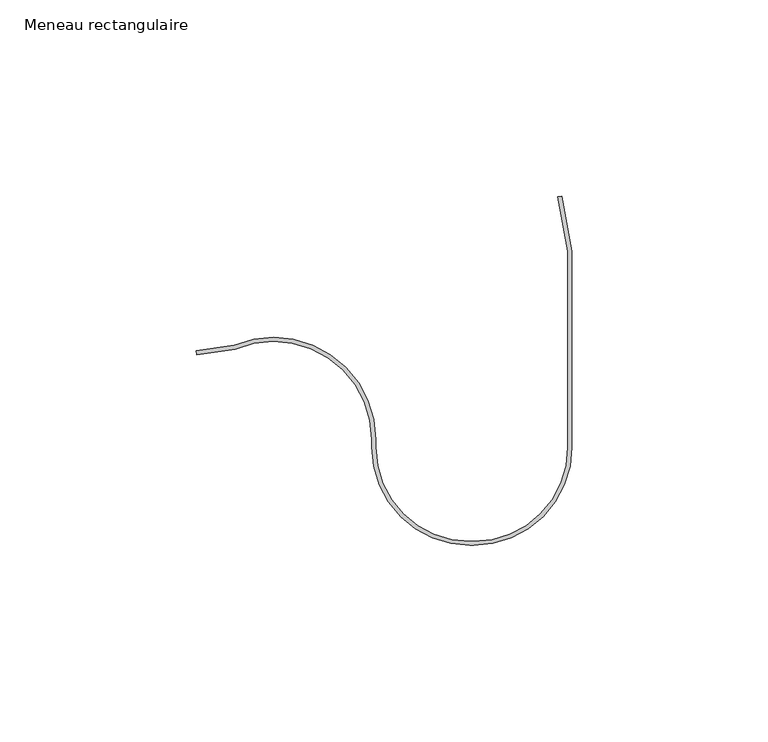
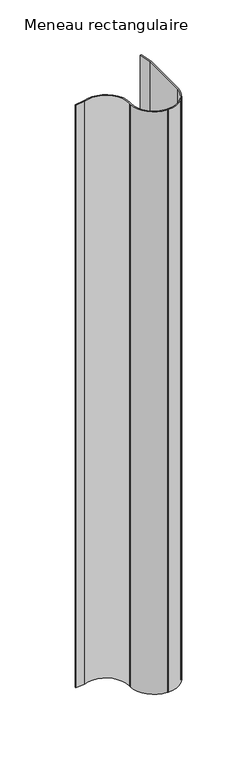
"""IFC4 building model written with IfcOpenShell, lengths in millimetres: member geometry, Meneau rectangulaire : Jonction contre mur Droite V."""

from ifc_helpers import new_model, si_unit, point, frame, frame_2d, origin, place, context, project, spatial, polyline, circle_curve, trimmed, segment, composite_curve, outline, extrude, source, transform, mapped, element, save


def meneau_rectangulaire_5152b783(model_context):
    return source(origin(), model_context, "Body", "SweptSolid", [
        extrude(outline(composite_curve([segment(polyline([(-1.0, 26.3569132), (-3.6043568, 40.2231847), (-2.6384309, 40.4046045), (0.0, 26.3569132), (0.0, -23.6430868)]), True, "CONTINUOUS"), segment(trimmed(circle_curve(frame_2d((-25.0, -23.6430868)), 25.0), [point((0.0, -23.6430868))], [point((-25.0, -48.6430868))], False, "CARTESIAN"), True, "CONTINUOUS"), segment(polyline([(-25.0, -48.6430868), (-26.0, -48.6430868)]), True, "CONTINUOUS"), segment(trimmed(circle_curve(frame_2d((-26.0, -23.6430868)), 25.0), [point((-26.0, -48.6430868))], [point((-51.0, -23.6430868))], False, "CARTESIAN"), True, "CONTINUOUS"), segment(polyline([(-51.0, -23.6430868), (-51.0, -21.6218737)]), True, "CONTINUOUS"), segment(trimmed(circle_curve(frame_2d((-76.0, -21.6218737)), 25.0), [point((-51.0, -21.6218737))], [point((-85.7659612, 1.391731))], True, "CARTESIAN"), True, "CONTINUOUS"), segment(polyline([(-85.7659612, 1.391731), (-95.6686418, 0.0), (-95.8078149, 0.9902681), (-86.0341553, 2.3638663)]), True, "CONTINUOUS"), segment(trimmed(circle_curve(frame_2d((-76.0, -21.6218737)), 26.0), [point((-86.0341553, 2.3638663))], [point((-50.0, -21.6218737))], False, "CARTESIAN"), True, "CONTINUOUS"), segment(polyline([(-50.0, -21.6218737), (-50.0, -23.6430868)]), True, "CONTINUOUS"), segment(trimmed(circle_curve(frame_2d((-26.0, -23.6430868)), 24.0), [point((-50.0, -23.6430868))], [point((-26.0, -47.6430868))], True, "CARTESIAN"), True, "CONTINUOUS"), segment(polyline([(-26.0, -47.6430868), (-25.0, -47.6430868)]), True, "CONTINUOUS"), segment(trimmed(circle_curve(frame_2d((-25.0, -23.6430868)), 24.0), [point((-25.0, -47.6430868))], [point((-1.0, -23.6430868))], True, "CARTESIAN"), True, "CONTINUOUS"), segment(polyline([(-1.0, -23.6430868), (-1.0, 26.3569132)]), True, "CONTINUOUS")], self_intersect=False)), frame((0.0, 0.0, -659.0), z_axis=(0.0, 0.0, 1.0), x_axis=(1.0, 0.0, 0.0)), (0.0, 0.0, 1.0), 659.0),
    ])


if __name__ == "__main__":
    model = new_model("IFC4")
    model_context = context("Model", 3, world=origin())
    ifc_project = project(units=[si_unit("LENGTHUNIT", "METRE", prefix="MILLI")], contexts=[model_context])
    site = spatial("IfcSite", under=ifc_project)
    building = spatial("IfcBuilding", under=site)
    placement = place(None, origin())
    meneau_rectangulaire_shape = meneau_rectangulaire_5152b783(model_context)
    element("IfcMember", 1, ObjectType="Meneau rectangulaire : Jonction contre mur Droite V", at=placement, inside=building, context=model_context, shape_type="MappedRepresentation", body=[
        mapped(meneau_rectangulaire_shape, transform((0.0, 0.0, 0.0), x_axis=(1.0, 0.0, 0.0), y_axis=(0.0, 1.0, 0.0), z_axis=(0.0, 0.0, 1.0))),
    ])
    save(model, "model.ifc")
